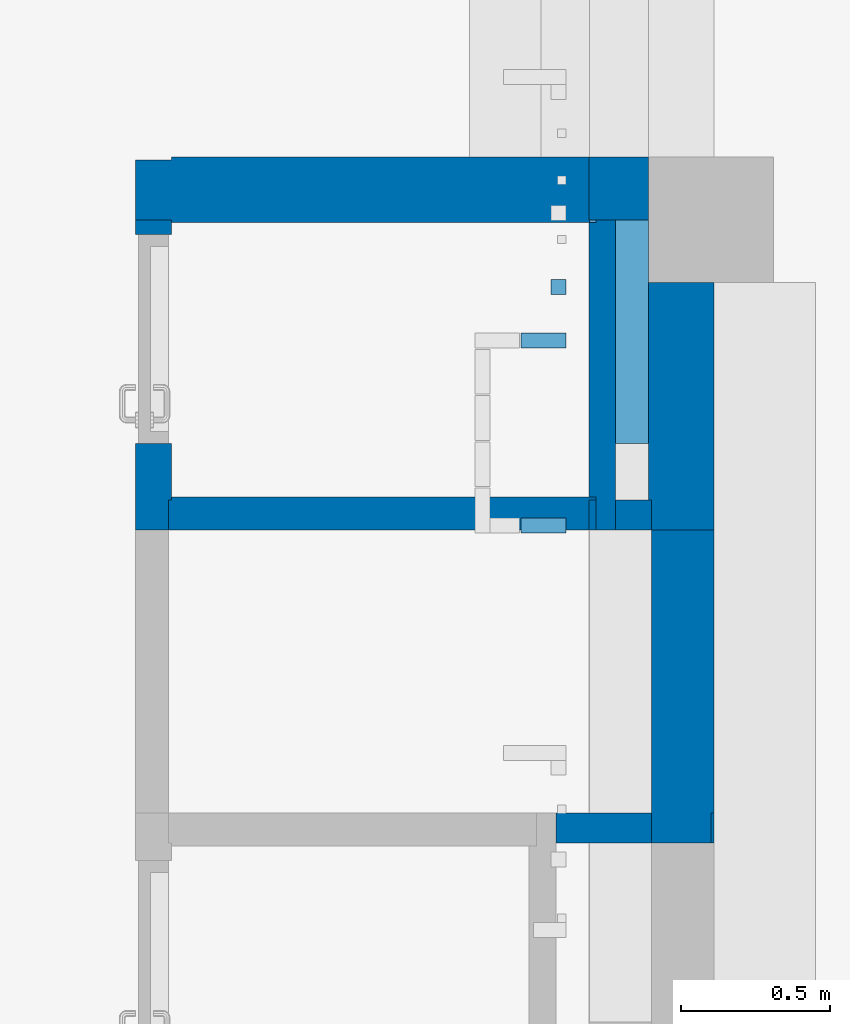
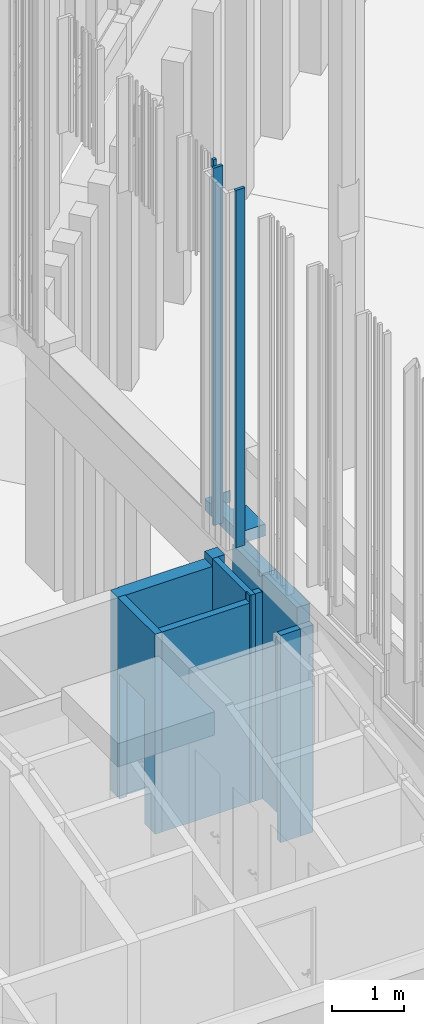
# One storey, part 128 of 390: 13 walls.
"""IFC2X3 building model written with IfcOpenShell, lengths in millimetres."""

from ifc_helpers import new_model, entity, si_unit, converted_unit, derived_unit, money_unit, direction, frame, origin_with_axes, place, context, subcontext, project, spatial, faceted_brep, material, material_list, type_object, element, save


model = new_model("IFC2X3")

# Units and contexts
model_context = context("Model", 3, precision=1e-05, world=origin_with_axes(), true_north=direction((0.0, 1.0)))
body_context = subcontext(model_context, "Body", "Model", "MODEL_VIEW")
ifc_project = project(units=[si_unit("LENGTHUNIT", "METRE", prefix="MILLI"), si_unit("AREAUNIT", "SQUARE_METRE"), si_unit("VOLUMEUNIT", "CUBIC_METRE"), converted_unit("PLANEANGLEUNIT", "DEGREE", entity("IfcPlaneAngleMeasure", 0.0174532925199), si_unit("PLANEANGLEUNIT", "RADIAN"), dimensions=[0, 0, 0, 0, 0, 0, 0]), si_unit("SOLIDANGLEUNIT", "STERADIAN"), money_unit("EUR"), converted_unit("TIMEUNIT", "Year", entity("IfcTimeMeasure", 31556926.0), si_unit("TIMEUNIT", "SECOND"), dimensions=[0, 0, 1, 0, 0, 0, 0]), si_unit("MASSUNIT", "GRAM", prefix="KILO"), si_unit("THERMODYNAMICTEMPERATUREUNIT", "DEGREE_CELSIUS"), si_unit("LUMINOUSINTENSITYUNIT", "LUMEN"), si_unit("ENERGYUNIT", "JOULE", prefix="MEGA"), derived_unit("THERMALCONDUCTANCEUNIT", [(si_unit("POWERUNIT", "WATT"), 1), (si_unit("LENGTHUNIT", "METRE"), -1), (si_unit("THERMODYNAMICTEMPERATUREUNIT", "KELVIN"), -1)]), derived_unit("SPECIFICHEATCAPACITYUNIT", [(si_unit("ENERGYUNIT", "JOULE"), 1), (si_unit("MASSUNIT", "GRAM", prefix="KILO"), -1), (si_unit("THERMODYNAMICTEMPERATUREUNIT", "KELVIN"), -1)]), derived_unit("MASSDENSITYUNIT", [(si_unit("MASSUNIT", "GRAM", prefix="KILO"), 1), (si_unit("VOLUMEUNIT", "CUBIC_METRE"), -1)])], contexts=[model_context])

# Site, building, storey
site_placement = place(None, origin_with_axes())
site = spatial("IfcSite", under=ifc_project, at=site_placement, Name="Site", CompositionType="ELEMENT")
building_placement = place(site_placement, origin_with_axes())
building = spatial("IfcBuilding", under=site, at=building_placement, Name="Building", CompositionType="ELEMENT")
storey_placement = place(building_placement, origin_with_axes())
storey = spatial("IfcBuildingStorey", under=building, at=storey_placement, Name="1 korrus", CompositionType="ELEMENT", Elevation=0.0)

# Walls
ifc_material_1 = material(Name="Müüriplokk - Konstuktsioon")
ifc_material_list_1 = material_list([ifc_material_1, ifc_material_1])
wall_type_1 = type_object("IfcWallType", Name="SS-09", PredefinedType="NOTDEFINED")
wall_1_placement = place(storey_placement, frame((122489.99996, 66260.0000104, -620.0), z_axis=(0.0, 0.0, 1.0), x_axis=(1.0, 0.0, 0.0)))
element("IfcWall", 1, at=wall_1_placement, inside=storey, type_object=wall_type_1, material=ifc_material_list_1, Name="SS-09", context=body_context, shape_type="Brep", body=[
    faceted_brep([(0.0, 0.0, 3520.23675989), (24.0, 0.0, 3520.23675989), (24.0, 100.0, 3520.23675992), (0.0, 100.0, 3520.23675989), (0.0, 0.0, 0.0), (24.0, 0.0, 0.0), (24.0, 100.0, 0.0), (0.0, 100.0, 0.0)], [[[0, 1, 2, 3]], [[4, 5, 1, 0]], [[5, 6, 2, 1]], [[3, 2, 6, 7]], [[4, 0, 3, 7]], [[7, 6, 5, 4]]]),
    faceted_brep([(210.000035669, 100.0, 0.0), (90.0, 100.0, 0.0), (90.0, 100.0, 3520.23675992), (210.000035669, 100.0, 3520.23675989), (210.000035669, 0.0, 0.0), (90.0, 0.0, 0.0), (90.0, 0.0, 3520.23675989), (210.000035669, 0.0, 3520.23675989)], [[[0, 1, 2, 3]], [[4, 5, 1, 0]], [[5, 6, 2, 1]], [[3, 2, 6, 7]], [[3, 7, 4, 0]], [[7, 6, 5, 4]]]),
])
wall_2_placement = place(storey_placement, frame((122379.999999, 65310.00001, -620.0), z_axis=(0.0, 0.0, 1.0), x_axis=(1.0, 0.0, 0.0)))
element("IfcWall", 2, at=wall_2_placement, inside=storey, type_object=wall_type_1, material=ifc_material_list_1, Name="SS-09", context=body_context, shape_type="Brep", body=[
    faceted_brep([(529.999996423, -100.0, 3520.23675989), (529.999996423, -100.0, 400.0), (529.999996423, 0.0, 400.0), (529.999996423, 0.0, 3520.23675989), (519.999996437, -100.0, 3520.23675989), (519.999999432, -100.0, 400.0), (519.999999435, 0.0, 400.0), (519.999996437, 0.0, 3520.23675989)], [[[0, 1, 2, 3]], [[4, 5, 1, 0]], [[5, 6, 2, 1]], [[3, 2, 6, 7]], [[3, 7, 4, 0]], [[7, 6, 5, 4]]]),
    faceted_brep([(0.0, -100.0, 3520.23675989), (319.999996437, -100.0, 3520.23675989), (319.999996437, 0.0, 3520.23675989), (0.0, 0.0, 3520.23675989), (0.0, -100.0, 0.0), (319.999996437, -100.0, 0.0), (319.999996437, 0.0, 0.0), (0.0, 0.0, 0.0)], [[[0, 1, 2, 3]], [[4, 5, 1, 0]], [[6, 2, 1, 5]], [[3, 2, 6, 7]], [[7, 4, 0, 3]], [[7, 6, 5, 4]]]),
])
ifc_material_2 = material(Name="Krohv - Lubjakivi")
ifc_material_3 = material(Name="Raudbetoon - Konstruktsioon")
ifc_material_list_2 = material_list([ifc_material_2, ifc_material_3, ifc_material_2])
wall_type_2 = type_object("IfcWallType", Name="SS-10", PredefinedType="NOTDEFINED")
wall_3_placement = place(storey_placement, frame((120969.999989, 67290.00001, -620.0), z_axis=(0.0, 0.0, 1.0), x_axis=(1.0, 0.0, 0.0)))
element("IfcWall", 3, at=wall_3_placement, inside=storey, type_object=wall_type_2, material=ifc_material_list_2, Name="SS-10", context=body_context, shape_type="Brep", body=[
    faceted_brep([(120.000003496, 220.0, 3395.23675944), (1530.00001017, 220.0, 3395.23675934), (1530.00001017, 220.0, 3520.0), (1543.99997084, 220.0, 3520.0), (1543.99997084, 220.0, 0.0), (120.000003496, 220.0, 0.0), (120.000003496, 210.0, 3395.23675944), (1530.00001018, 210.0, 3395.23675934), (1530.00001018, 210.0, 3520.0), (1543.99997084, 210.0, 3520.0), (1543.99997084, 210.0, 0.0), (120.000003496, 210.0, 0.0)], [[[0, 1, 2, 3, 4, 5]], [[1, 0, 6, 7]], [[8, 2, 1, 7]], [[2, 8, 9, 3]], [[10, 4, 3, 9]], [[4, 10, 11, 5]], [[6, 0, 5, 11]], [[7, 6, 11, 10, 9, 8]]]),
    faceted_brep([(0.0, 210.0, 3395.23675944), (1530.00001018, 210.0, 3395.23675934), (1530.00001018, 210.0, 3520.0), (1609.99997084, 210.0, 3520.0), (1609.99997084, 210.0, 0.0), (0.0, 210.0, 0.0), (0.0, 10.0, 3395.23675944), (1530.00001026, 10.0, 3395.23675935), (1530.00001026, 10.0, 3520.0), (1609.99997084, 10.0, 3520.0), (1609.99997084, 10.0, 0.0), (0.0, 10.0, 0.0)], [[[0, 1, 2, 3, 4, 5]], [[1, 0, 6, 7]], [[8, 2, 1, 7]], [[2, 8, 9, 3]], [[10, 4, 3, 9]], [[4, 10, 11, 5]], [[6, 0, 5, 11]], [[7, 6, 11, 10, 9, 8]]]),
    faceted_brep([(120.000003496, 10.0, 3395.23675944), (1530.00001026, 10.0, 3395.23675935), (1530.00001026, 10.0, 3520.0), (1543.99997084, 10.0, 3520.0), (1543.99997084, 10.0, 0.0), (120.000003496, 10.0, 0.0), (120.000003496, 0.0, 3395.23675944), (1530.00001027, 0.0, 3395.23675935), (1530.00001027, 0.0, 3520.0), (1543.99997084, 0.0, 3520.0), (1543.99997084, 0.0, 0.0), (120.000003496, 0.0, 0.0)], [[[0, 1, 2, 3, 4, 5]], [[1, 0, 6, 7]], [[8, 2, 1, 7]], [[2, 8, 9, 3]], [[10, 4, 3, 9]], [[4, 10, 11, 5]], [[6, 0, 5, 11]], [[7, 6, 11, 10, 9, 8]]]),
])
wall_4_placement = place(storey_placement, frame((122909.999995, 66260.0000104, -620.0), z_axis=(0.0, 0.0, 1.0), x_axis=(0.0, 1.0, 0.0)))
element("IfcWall", 4, at=wall_4_placement, inside=storey, type_object=wall_type_2, material=ifc_material_list_2, Name="SS-10", context=body_context, shape_type="Brep", body=[
    faceted_brep([(100.0, 210.0, 3520.23675989), (100.0, 210.0, 0.0), (829.999997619, 210.0, 0.0), (829.999997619, 210.0, 3820.23675989), (0.0, 210.0, 3820.23675989), (0.0, 210.0, 3520.23675989), (100.0, 220.0, 3520.23675989), (100.0, 220.0, 0.0), (829.999997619, 220.0, 0.0), (829.999997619, 220.0, 3820.23675989), (0.0, 220.0, 3820.23675989), (0.0, 220.0, 3520.23675989)], [[[0, 1, 2, 3, 4, 5]], [[1, 0, 6, 7]], [[1, 7, 8, 2]], [[3, 2, 8, 9]], [[9, 10, 4, 3]], [[11, 5, 4, 10]], [[0, 5, 11, 6]], [[6, 11, 10, 9, 8, 7]]]),
    faceted_brep([(0.0, 210.0, 3820.23675989), (0.0, 10.0, 3820.23675989), (829.999997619, 10.0, 3820.23675989), (829.999997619, 210.0, 3820.23675989), (0.0, 210.0, 0.0), (0.0, 10.0, 0.0), (829.999997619, 10.0, 0.0), (829.999997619, 210.0, 0.0)], [[[0, 1, 2, 3]], [[1, 0, 4, 5]], [[1, 5, 6, 2]], [[6, 7, 3, 2]], [[0, 3, 7, 4]], [[5, 4, 7, 6]]]),
    faceted_brep([(0.0, 0.0, 400.0), (829.999997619, 0.0, 400.0), (829.999997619, 0.0, 3820.23675989), (0.0, 0.0, 3820.23675989), (0.0, 0.0, 3520.23675989), (829.999997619, 9.99999692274, 400.0), (0.0, 9.99999694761, 400.0), (829.999997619, 10.0, 3820.23675989), (0.0, 10.0, 3820.23675989)], [[[0, 1, 2, 3, 4]], [[5, 1, 0, 6]], [[1, 5, 7, 2]], [[7, 8, 3, 2]], [[6, 0, 4, 3, 8]], [[5, 6, 8, 7]]]),
])
ifc_material_list_3 = material_list([ifc_material_2, ifc_material_3])
wall_type_3 = type_object("IfcWallType", Name="SS-11", PredefinedType="NOTDEFINED")
wall_5_placement = place(storey_placement, frame((122489.99996, 67300.00001, -620.0), z_axis=(0.0, 0.0, 1.0), x_axis=(1.0, 0.0, 0.0)))
element("IfcWall", 5, at=wall_5_placement, inside=storey, type_object=wall_type_3, material=ifc_material_list_3, Name="SS-11", context=body_context, shape_type="Brep", body=[
    faceted_brep([(200.000024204, 210.0, 0.0), (200.000024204, 200.0, 0.0), (0.0, 200.0, 0.0), (0.0, 210.0, 0.0), (200.000024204, 210.0, 3520.0), (200.000024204, 200.0, 3520.0), (0.0, 200.0, 3520.0), (0.0, 210.0, 3520.0)], [[[0, 1, 2, 3]], [[0, 4, 5, 1]], [[1, 5, 6, 2]], [[3, 2, 6, 7]], [[4, 0, 3, 7]], [[5, 4, 7, 6]]]),
    faceted_brep([(200.000024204, 200.0, 0.0), (200.000024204, 0.0, 0.0), (0.0, 0.0, 0.0), (0.0, 200.0, 0.0), (200.000024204, 200.0, 3520.0), (200.000024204, 0.0, 3520.0), (0.0, 0.0, 3520.0), (0.0, 200.0, 3520.0)], [[[0, 1, 2, 3]], [[0, 4, 5, 1]], [[1, 5, 6, 2]], [[3, 2, 6, 7]], [[4, 0, 3, 7]], [[5, 4, 7, 6]]]),
])
ifc_material_list_4 = material_list([ifc_material_3, ifc_material_2])
wall_6_placement = place(storey_placement, frame((122699.999995, 65310.00001, -620.0), z_axis=(0.0, 0.0, 1.0), x_axis=(0.0, 1.0, 0.0)))
element("IfcWall", 6, at=wall_6_placement, inside=storey, type_object=wall_type_3, material=ifc_material_list_4, Name="SS-11", context=body_context, shape_type="Brep", body=[
    faceted_brep([(1050.00000038, 0.0, 0.0), (1050.00000038, 0.0, 3520.23675989), (1050.00000038, -200.0, 3520.23675989), (1050.00000038, -200.0, 0.0), (950.000000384, 0.0, 3820.23675989), (950.000000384, 0.0, 3520.23675989), (-100.0, 0.0, 0.0), (-100.0, 0.0, 3520.23675989), (0.0, 0.0, 3520.23675989), (0.0, 0.0, 3820.23675989), (950.000000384, -200.0, 3520.23675989), (950.000000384, -200.0, 3820.23675989), (0.0, -200.0, 3820.23675989), (0.0, -200.0, 3520.23675989), (-100.0, -200.0, 3520.23675989), (-100.0, -200.0, 0.0)], [[[0, 1, 2, 3]], [[4, 5, 1, 0, 6, 7, 8, 9]], [[10, 2, 1, 5]], [[2, 10, 11, 12, 13, 14, 15, 3]], [[6, 0, 3, 15]], [[5, 4, 11, 10]], [[6, 15, 14, 7]], [[8, 7, 14, 13]], [[8, 13, 12, 9]], [[12, 11, 4, 9]]]),
    faceted_brep([(0.0, -209.999999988, 400.0), (950.000000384, -209.999999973, 400.0), (950.000000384, -209.999999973, 3520.23675989), (950.000000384, -210.0, 3820.23675989), (0.0, -210.0, 3820.23675989), (950.000000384, -200.000003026, 400.0), (0.0, -200.000002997, 400.0), (950.000000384, -200.0, 3820.23675989), (0.0, -200.0, 3820.23675989)], [[[0, 1, 2, 3, 4]], [[5, 1, 0, 6]], [[1, 5, 7, 3, 2]], [[8, 4, 3, 7]], [[6, 0, 4, 8]], [[5, 6, 8, 7]]]),
])
ifc_material_4 = material(Name="Site specified")
wall_type_4 = type_object("IfcWallType", Name="Puitfassaadi ribistik", PredefinedType="NOTDEFINED")
wall_7_placement = place(storey_placement, frame((122387.999995, 67074.9754734, 3795.0), z_axis=(0.0, 0.0, 1.0), x_axis=(0.0, 1.0, 0.0)))
element("IfcWall", 7, at=wall_7_placement, inside=storey, type_object=wall_type_4, material=ifc_material_4, Name="Site specified", context=body_context, shape_type="Brep", body=[
    faceted_brep([(25.0, 25.0, 6070.0), (25.0, 25.0, 0.0), (-25.0, 25.0, 0.0), (-25.0, 25.0, 6070.0), (25.0, -25.0, 6070.0), (25.0, -25.0, 0.0), (-25.0, -25.0, 0.0), (-25.0, -25.0, 6070.0)], [[[0, 1, 2, 3]], [[4, 5, 1, 0]], [[2, 1, 5, 6]], [[3, 2, 6, 7]], [[4, 0, 3, 7]], [[7, 6, 5, 4]]]),
])
ifc_material_list_5 = material_list([ifc_material_2, ifc_material_1])
wall_type_5 = type_object("IfcWallType", Name="SS-08", PredefinedType="NOTDEFINED")
wall_8_placement = place(storey_placement, frame((121079.999992, 66260.0000104, -620.0), z_axis=(0.0, 0.0, 1.0), x_axis=(1.0, 0.0, 0.0)))
element("IfcWall", 8, at=wall_8_placement, inside=storey, type_object=wall_type_5, material=ifc_material_list_5, Name="SS-08", context=body_context, shape_type="Brep", body=[
    faceted_brep([(10.0, 110.0, 3395.23675944), (1420.00000717, 110.0, 3395.23675938), (1420.00000717, 110.0, 3520.23675992), (1433.99996734, 110.0, 3520.23675992), (1433.99996734, 110.0, 0.0), (10.0, 110.0, 0.0), (10.0, 100.0, 3395.23675944), (1420.00000718, 100.0, 3395.23675938), (1420.00000718, 100.0, 3520.23675992), (1433.99996734, 100.0, 3520.23675992), (1433.99996734, 100.0, 0.0), (10.0, 100.0, 0.0)], [[[0, 1, 2, 3, 4, 5]], [[1, 0, 6, 7]], [[8, 2, 1, 7]], [[2, 8, 9, 3]], [[10, 4, 3, 9]], [[5, 4, 10, 11]], [[6, 0, 5, 11]], [[7, 6, 11, 10, 9, 8]]]),
    faceted_brep([(0.0, 100.0, 3395.23675944), (1420.00000718, 100.0, 3395.23675938), (1420.00000718, 100.0, 3520.23675992), (1433.99996734, 100.0, 3520.23675992), (1433.99996734, 100.0, 0.0), (0.0, 100.0, 0.0), (0.0, 0.0, 3395.23675944), (1420.00000722, 0.0, 3395.23675938), (1420.00000722, 0.0, 3520.23675989), (1433.99996734, 0.0, 3520.23675989), (1433.99996734, 0.0, 0.0), (0.0, 0.0, 0.0)], [[[0, 1, 2, 3, 4, 5]], [[1, 0, 6, 7]], [[8, 2, 1, 7]], [[2, 8, 9, 3]], [[10, 4, 3, 9]], [[5, 4, 10, 11]], [[6, 0, 5, 11]], [[7, 6, 11, 10, 9, 8]]]),
])
ifc_material_5 = material(Name="Plaat - Sein")
ifc_material_6 = material(Name="Soojustus - Plastik Kõva")
ifc_material_list_6 = material_list([ifc_material_5, ifc_material_6, ifc_material_6, ifc_material_3, ifc_material_3, ifc_material_2])
wall_type_6 = type_object("IfcWallType", Name="VS-05", PredefinedType="NOTDEFINED")
wall_9_placement = place(storey_placement, frame((122909.999995, 66550.0000098, 3595.0), z_axis=(0.0, 0.0, 1.0), x_axis=(0.0, 1.0, 0.0)))
element("IfcWall", 9, at=wall_9_placement, inside=storey, type_object=wall_type_6, material=ifc_material_list_6, Name="VS-05", context=body_context, shape_type="Brep", body=[
    faceted_brep([(959.999988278, 418.000000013, 0.0), (959.999988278, 410.000000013, 0.0), (-5.49960077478e-09, 410.0, 0.0), (-5.6132876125e-09, 418.0, 0.0), (959.999988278, 418.000000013, 200.0), (959.999988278, 410.000000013, 200.0), (-5.49960077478e-09, 410.0, 200.0), (-5.6132876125e-09, 418.0, 200.0)], [[[0, 1, 2, 3]], [[0, 4, 5, 1]], [[1, 5, 6, 2]], [[3, 2, 6, 7]], [[4, 0, 3, 7]], [[5, 4, 7, 6]]]),
    faceted_brep([(959.999988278, 410.000000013, 0.0), (959.999988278, 360.000000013, 0.0), (-4.83169060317e-09, 360.0, 0.0), (-5.49960077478e-09, 410.0, 0.0), (959.999988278, 410.000000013, 200.0), (959.999988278, 360.000000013, 200.0), (-4.83169060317e-09, 360.0, 200.0), (-5.49960077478e-09, 410.0, 200.0)], [[[0, 1, 2, 3]], [[0, 4, 5, 1]], [[1, 5, 6, 2]], [[3, 2, 6, 7]], [[4, 0, 3, 7]], [[5, 4, 7, 6]]]),
    faceted_brep([(540.000001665, 210.000000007, 0.0), (540.000001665, 210.000000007, 200.0), (-2.81374923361e-09, 210.0, 200.0), (-2.81374923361e-09, 210.0, 0.0), (540.000001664, 220.000001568, 200.0), (540.000001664, 220.000001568, 0.0), (960.000001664, 220.000001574, 200.0), (959.999988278, 360.000000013, 200.0), (-4.83169060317e-09, 360.0, 200.0), (-4.83169060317e-09, 360.0, 0.0), (959.999988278, 360.000000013, 0.0), (960.000001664, 220.000001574, 0.0)], [[[0, 1, 2, 3]], [[4, 1, 0, 5]], [[4, 6, 7, 8, 2, 1]], [[8, 9, 3, 2]], [[5, 0, 3, 9, 10, 11]], [[11, 6, 4, 5]], [[6, 11, 10, 7]], [[8, 7, 10, 9]]]),
    faceted_brep([(550.000001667, 10.0000000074, 0.0), (550.000001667, 10.0000000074, 200.0), (-1.27897692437e-10, 10.0, 200.0), (-1.27897692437e-10, 10.0, 0.0), (550.000001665, 210.000001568, 200.0), (550.000001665, 210.000001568, 0.0), (-2.81374923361e-09, 210.0, 200.0), (-2.81374923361e-09, 210.0, 0.0)], [[[0, 1, 2, 3]], [[4, 1, 0, 5]], [[1, 4, 6, 2]], [[6, 7, 3, 2]], [[5, 0, 3, 7]], [[4, 5, 7, 6]]]),
    faceted_brep([(950.000001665, 210.000001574, 200.0), (950.000001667, 10.0000000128, 200.0), (959.999988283, 10.0000000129, 200.0), (959.99998828, 210.000000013, 200.0), (950.000001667, 10.0000000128, 0.0), (950.000001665, 210.000001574, 0.0), (959.999988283, 10.0000000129, 0.0), (959.99998828, 210.000000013, 0.0)], [[[0, 1, 2, 3]], [[4, 1, 0, 5]], [[1, 4, 6, 2]], [[6, 7, 3, 2]], [[5, 0, 3, 7]], [[4, 5, 7, 6]]]),
    faceted_brep([(540.000001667, 7.24753590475e-09, 0.0), (540.000001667, 7.24753590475e-09, 200.0), (0.0, 0.0, 200.0), (0.0, 0.0, 0.0), (540.000001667, 10.0000000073, 200.0), (540.000001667, 10.0000000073, 0.0), (-1.27897692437e-10, 10.0, 200.0), (-1.27897692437e-10, 10.0, 0.0)], [[[0, 1, 2, 3]], [[4, 1, 0, 5]], [[1, 4, 6, 2]], [[6, 7, 3, 2]], [[5, 0, 3, 7]], [[4, 5, 7, 6]]]),
])
wall_type_7 = type_object("IfcWallType", Name="Puitfassaadi ribisik", PredefinedType="NOTDEFINED")
for number, where, z_axis, x_axis, name in (
    (10, (122337.999981, 66895.0000898, 3795.0), (0.0, 0.0, 1.0), (1.92421249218e-07, 1.0, 0.0), "Site specified"),
    (11, (122338.0, 66275.0000249, 3795.0), (0.0, 0.0, 1.0), (1.92421249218e-07, 1.0, 0.0), "Site specified"),
):
    element("IfcWall", number, at=place(storey_placement, frame(where, z_axis=z_axis, x_axis=x_axis)), inside=storey, type_object=wall_type_7, material=ifc_material_4, Name=name, context=body_context, shape_type="Brep", body=[
        faceted_brep([(-25.0, -75.0, 6069.9999949), (-25.0, -75.0, 0.0), (25.0, -75.0, 0.0), (25.0, -75.0, 6069.9999949), (-25.0, 75.0, 6069.9999949), (-25.0, 75.0, 0.0), (25.0, 75.0, 0.0), (25.0, 75.0, 6069.9999949)], [[[0, 1, 2, 3]], [[4, 5, 1, 0]], [[2, 1, 5, 6]], [[3, 2, 6, 7]], [[4, 0, 3, 7]], [[7, 6, 5, 4]]]),
    ])
ifc_material_list_7 = material_list([ifc_material_2, ifc_material_1, ifc_material_2])
wall_type_8 = type_object("IfcWallType", Name="SS-07", PredefinedType="NOTDEFINED")
wall_10_placement = place(storey_placement, frame((121079.999992, 67300.00001, -620.0), z_axis=(0.0, 0.0, 1.0), x_axis=(0.0, -1.0, 0.0)))
element("IfcWall", 12, at=wall_10_placement, inside=storey, type_object=wall_type_8, material=ifc_material_list_7, Name="SS-07", context=body_context, shape_type="Brep", body=[
    faceted_brep([(0.0, 0.0, 3395.23675944), (0.0, 10.0, 3395.23675944), (0.0, 10.0, 0.0), (0.0, 0.0, 0.0), (939.999999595, 10.0, 3395.23675944), (939.999999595, 0.0, 3395.23675944), (939.999999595, 10.0, 0.0), (750.00000021, 10.0, 0.0), (750.00000021, 10.0, 20.0), (750.00000021, 10.0, 2120.0), (50.0000002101, 10.0, 2120.0), (50.0000002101, 10.0, 20.0), (50.0000002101, 10.0, 0.0), (50.0000002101, 0.0, 0.0), (50.0000002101, 0.0, 20.0), (50.0000002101, 0.0, 2120.0), (750.00000021, 0.0, 2120.0), (750.00000021, 0.0, 20.0), (750.00000021, 0.0, 0.0), (939.999999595, 0.0, 0.0)], [[[0, 1, 2, 3]], [[4, 1, 0, 5]], [[1, 4, 6, 7, 8, 9, 10, 11, 12, 2]], [[12, 13, 3, 2]], [[5, 0, 3, 13, 14, 15, 16, 17, 18, 19]], [[4, 5, 19, 6]], [[18, 7, 6, 19]], [[18, 17, 8, 7]], [[16, 9, 8, 17]], [[15, 10, 9, 16]], [[14, 11, 10, 15]], [[12, 11, 14, 13]]]),
    faceted_brep([(0.0, -100.0, 3395.23675944), (0.0, 0.0, 3395.23675944), (0.0, 0.0, 0.0), (0.0, -100.0, 0.0), (1039.99999959, 0.0, 3395.23675944), (1039.99999959, -100.0, 3395.23675944), (1039.99999959, 0.0, 0.0), (750.00000021, 0.0, 0.0), (750.00000021, 0.0, 20.0), (750.00000021, 0.0, 2120.0), (50.0000002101, 0.0, 2120.0), (50.0000002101, 0.0, 20.0), (50.0000002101, 0.0, 0.0), (50.0000002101, -100.0, 0.0), (50.0000002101, -100.0, 20.0), (50.0000002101, -100.0, 2120.0), (750.00000021, -100.0, 2120.0), (750.00000021, -100.0, 20.0), (750.00000021, -100.0, 0.0), (1039.99999959, -100.0, 0.0)], [[[0, 1, 2, 3]], [[4, 1, 0, 5]], [[1, 4, 6, 7, 8, 9, 10, 11, 12, 2]], [[12, 13, 3, 2]], [[5, 0, 3, 13, 14, 15, 16, 17, 18, 19]], [[4, 5, 19, 6]], [[18, 7, 6, 19]], [[18, 17, 8, 7]], [[16, 9, 8, 17]], [[15, 10, 9, 16]], [[14, 11, 10, 15]], [[12, 11, 14, 13]]]),
    faceted_brep([(0.0, -110.0, 3395.23675944), (0.0, -100.0, 3395.23675944), (0.0, -100.0, 0.0), (0.0, -110.0, 0.0), (1039.99999959, -100.0, 3395.23675944), (1039.99999959, -110.0, 3395.23675944), (1039.99999959, -100.0, 0.0), (750.00000021, -100.0, 0.0), (750.00000021, -100.0, 20.0), (750.00000021, -100.0, 2120.0), (50.0000002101, -100.0, 2120.0), (50.0000002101, -100.0, 20.0), (50.0000002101, -100.0, 0.0), (50.0000002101, -110.0, 0.0), (50.0000002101, -110.0, 20.0), (50.0000002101, -110.0, 2120.0), (750.00000021, -110.0, 2120.0), (750.00000021, -110.0, 20.0), (750.00000021, -110.0, 0.0), (1039.99999959, -110.0, 0.0)], [[[0, 1, 2, 3]], [[4, 1, 0, 5]], [[1, 4, 6, 7, 8, 9, 10, 11, 12, 2]], [[12, 13, 3, 2]], [[5, 0, 3, 13, 14, 15, 16, 17, 18, 19]], [[4, 5, 19, 6]], [[18, 7, 6, 19]], [[18, 17, 8, 7]], [[16, 9, 8, 17]], [[15, 10, 9, 16]], [[14, 11, 10, 15]], [[12, 11, 14, 13]]]),
])
ifc_material_7 = material(Name="Kipsplaat - Veekindel")
ifc_material_8 = material(Name="Teras")
ifc_material_list_8 = material_list([ifc_material_7, ifc_material_7, ifc_material_8])
wall_type_9 = type_object("IfcWallType", Name="SS-14", PredefinedType="NOTDEFINED")
wall_11_placement = place(storey_placement, frame((122489.99996, 66260.0000104, -620.0), z_axis=(0.0, 0.0, 1.0), x_axis=(0.0, 1.0, 0.0)))
element("IfcWall", 13, at=wall_11_placement, inside=storey, type_object=wall_type_9, material=ifc_material_list_8, Name="SS-14", context=body_context, shape_type="Brep", body=[
    faceted_brep([(1029.99999959, -12.0, 0.0), (1029.99999959, -12.0, 3520.0), (1039.99999959, -12.0, 3520.0), (1039.99999959, -12.0, 3520.23676016), (110.0, -12.0, 3520.23675989), (110.0, -12.0, 0.0), (1029.99999959, 0.0, 0.0), (1029.99999959, 0.0, 3520.0), (1039.99999959, 0.0, 3520.0), (1039.99999959, 0.0, 3520.23676016), (110.0, 0.0, 3520.23675989), (110.0, 0.0, 0.0)], [[[0, 1, 2, 3, 4, 5]], [[1, 0, 6, 7]], [[8, 2, 1, 7]], [[2, 8, 9, 3]], [[10, 4, 3, 9]], [[5, 4, 10, 11]], [[6, 0, 5, 11]], [[7, 6, 11, 10, 9, 8]]]),
    faceted_brep([(1029.99999959, -24.0, 0.0), (1029.99999959, -24.0, 3520.0), (1039.99999959, -24.0, 3520.0), (1039.99999959, -24.0, 3520.23676016), (110.0, -24.0, 3520.23675989), (110.0, -24.0, 0.0), (1029.99999959, -12.0, 0.0), (1029.99999959, -12.0, 3520.0), (1039.99999959, -12.0, 3520.0), (1039.99999959, -12.0, 3520.23676016), (110.0, -12.0, 3520.23675989), (110.0, -12.0, 0.0)], [[[0, 1, 2, 3, 4, 5]], [[1, 0, 6, 7]], [[8, 2, 1, 7]], [[2, 8, 9, 3]], [[10, 4, 3, 9]], [[5, 4, 10, 11]], [[6, 0, 5, 11]], [[7, 6, 11, 10, 9, 8]]]),
    faceted_brep([(1039.99999959, -90.0, 0.0), (1039.99999959, -90.0, 3520.0), (1039.99999959, -90.0, 3520.23676016), (0.0, -90.0, 3520.23675989), (0.0, -90.0, 0.0), (1039.99999959, -24.0, 0.0), (1039.99999959, -24.0, 3520.0), (1039.99999959, -24.0, 3520.23676016), (0.0, -24.0, 3520.23675989), (0.0, -24.0, 0.0)], [[[0, 1, 2, 3, 4]], [[1, 0, 5, 6, 7, 2]], [[3, 2, 7, 8]], [[9, 4, 3, 8]], [[5, 0, 4, 9]], [[6, 5, 9, 8, 7]]]),
])

save(model, "model.ifc")
